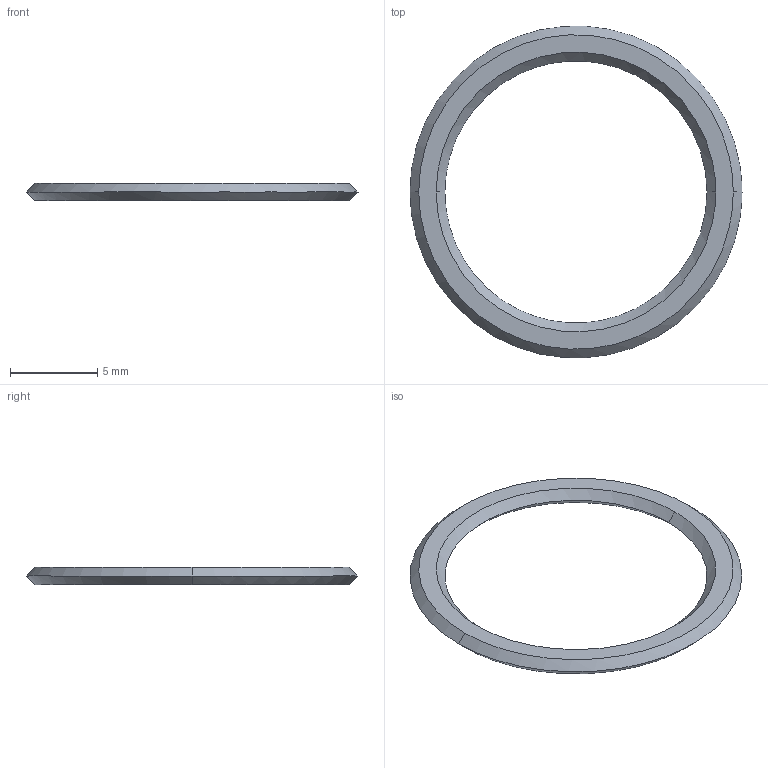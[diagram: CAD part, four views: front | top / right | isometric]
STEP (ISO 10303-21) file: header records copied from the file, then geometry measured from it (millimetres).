
FILE_DESCRIPTION(/* description */ (''),/* implementation_level */ '2;1');
FILE_NAME(/* name */ 'X-E444~1',/* time_stamp */ '2014-02-14T19:45:43+01:00',/* author */ (''),/* organization */ (''),/* preprocessor_version */ 'ST-DEVELOPER v14',/* originating_system */ '',/* authorisation */ '');
FILE_SCHEMA (('AUTOMOTIVE_DESIGN'));
Length unit declared in the file: millimetre
Products named in the file (1): Document
Bounding box: 19 x 18.97 x 1 mm (x, y, z)
Volume: 80.1 mm3; surface area: 257.9 mm2
Topology: 1 solids, 1 shells, 10 faces, 20 edges, 12 vertices
Faces by surface type: bspline 8, plane 2
Entity records: 626 total; most frequent: CARTESIAN_POINT 340, ORIENTED_EDGE 40, PCURVE 40, DEFINITIONAL_REPRESENTATION 40, B_SPLINE_CURVE_WITH_KNOTS 40, SURFACE_CURVE 20, EDGE_CURVE 20, EDGE_LOOP 12
